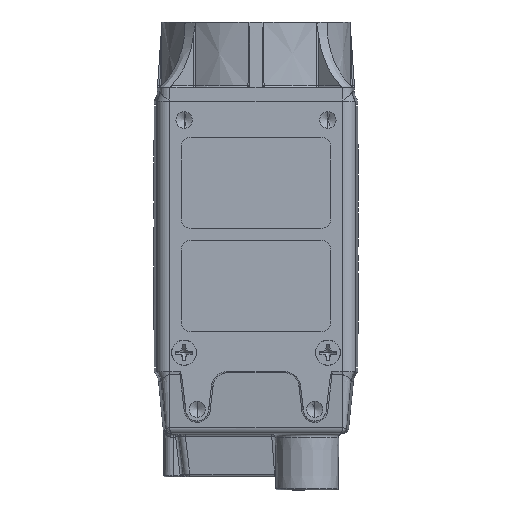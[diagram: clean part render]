
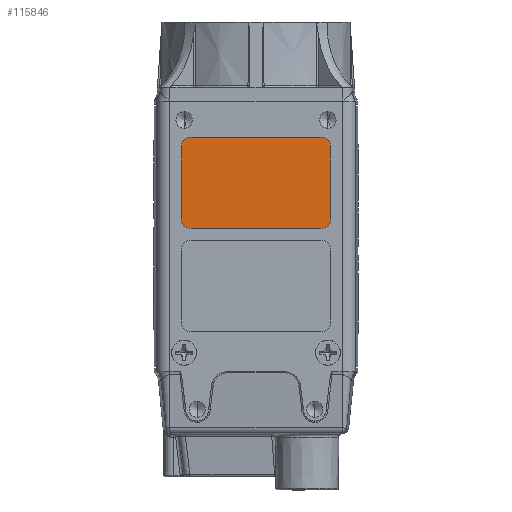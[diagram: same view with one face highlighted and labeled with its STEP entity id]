
A CAD part, front view. The second image highlights one B-rep face of the part: STEP entity #115846.
In plain terms, the highlighted planar face has unit normal (0, -1, 0).
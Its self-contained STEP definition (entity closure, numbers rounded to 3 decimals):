
#4198 = ORIENTED_EDGE ( 'NONE', *, *, #4394, .T. ) ;
#4394 = EDGE_CURVE ( 'NONE', #112874, #144542, #6226, .T. ) ;
#4885 = EDGE_CURVE ( 'NONE', #77280, #62161, #118172, .T. ) ;
#6226 = CIRCLE ( 'NONE', #97783, 1.5 ) ;
#8879 = ORIENTED_EDGE ( 'NONE', *, *, #78339, .T. ) ;
#14625 = CARTESIAN_POINT ( 'NONE',  ( 9.925, 0.25, -19.1 ) ) ;
#16674 = CARTESIAN_POINT ( 'NONE',  ( 9.925, 0.25, -31.6 ) ) ;
#16895 = AXIS2_PLACEMENT_3D ( 'NONE', #14625, #92870, #25866 ) ;
#17725 = EDGE_CURVE ( 'NONE', #62161, #135800, #123587, .T. ) ;
#18489 = CARTESIAN_POINT ( 'NONE',  ( -9.925, 0.25, -19.1 ) ) ;
#19337 = DIRECTION ( 'NONE',  ( 0., -1., 0. ) ) ;
#20109 = VECTOR ( 'NONE', #142244, 1000. ) ;
#20398 = CARTESIAN_POINT ( 'NONE',  ( -9.925, 0.25, -31.6 ) ) ;
#23567 = ORIENTED_EDGE ( 'NONE', *, *, #4885, .T. ) ;
#25866 = DIRECTION ( 'NONE',  ( 0., 0., 1. ) ) ;
#25900 = LINE ( 'NONE', #129261, #85382 ) ;
#28956 = FACE_OUTER_BOUND ( 'NONE', #52921, .T. ) ;
#29724 = DIRECTION ( 'NONE',  ( 0., 0., 1. ) ) ;
#30325 = CARTESIAN_POINT ( 'NONE',  ( 9.925, 0.25, -30.1 ) ) ;
#31133 = ORIENTED_EDGE ( 'NONE', *, *, #101975, .T. ) ;
#31821 = ORIENTED_EDGE ( 'NONE', *, *, #17725, .T. ) ;
#32756 = ORIENTED_EDGE ( 'NONE', *, *, #111652, .T. ) ;
#41097 = CARTESIAN_POINT ( 'NONE',  ( 9.925, 0.25, -31.6 ) ) ;
#41640 = DIRECTION ( 'NONE',  ( 0., 0., 1. ) ) ;
#46065 = CARTESIAN_POINT ( 'NONE',  ( -9.925, 0.25, -30.1 ) ) ;
#48413 = ORIENTED_EDGE ( 'NONE', *, *, #88491, .T. ) ;
#49814 = LINE ( 'NONE', #41097, #20109 ) ;
#52265 = CARTESIAN_POINT ( 'NONE',  ( 11.425, 0.25, -19.1 ) ) ;
#52921 = EDGE_LOOP ( 'NONE', ( #31821, #8879, #48413, #32756, #4198, #31133, #121052, #23567 ) ) ;
#57301 = DIRECTION ( 'NONE',  ( 0., 0., 1. ) ) ;
#62161 = VERTEX_POINT ( 'NONE', #75930 ) ;
#62713 = AXIS2_PLACEMENT_3D ( 'NONE', #46065, #124331, #57301 ) ;
#65151 = VERTEX_POINT ( 'NONE', #20398 ) ;
#69154 = CARTESIAN_POINT ( 'NONE',  ( 9.925, 0.25, -17.6 ) ) ;
#74122 = VECTOR ( 'NONE', #81740, 1000. ) ;
#75930 = CARTESIAN_POINT ( 'NONE',  ( -9.925, 0.25, -17.6 ) ) ;
#77280 = VERTEX_POINT ( 'NONE', #69154 ) ;
#77624 = LINE ( 'NONE', #138002, #74122 ) ;
#78339 = EDGE_CURVE ( 'NONE', #135800, #101176, #25900, .T. ) ;
#81740 = DIRECTION ( 'NONE',  ( 0., 0., 1. ) ) ;
#82258 = CIRCLE ( 'NONE', #62713, 1.5 ) ;
#84666 = DIRECTION ( 'NONE',  ( 0., 0., -1. ) ) ;
#85382 = VECTOR ( 'NONE', #84666, 1000. ) ;
#86384 = CARTESIAN_POINT ( 'NONE',  ( -9.925, 0.25, -19.1 ) ) ;
#86750 = CIRCLE ( 'NONE', #16895, 1.5 ) ;
#88372 = VECTOR ( 'NONE', #139733, 1000. ) ;
#88491 = EDGE_CURVE ( 'NONE', #101176, #65151, #82258, .T. ) ;
#92870 = DIRECTION ( 'NONE',  ( 0., -1., 0. ) ) ;
#95358 = CARTESIAN_POINT ( 'NONE',  ( -11.425, 0.25, -19.1 ) ) ;
#95829 = AXIS2_PLACEMENT_3D ( 'NONE', #86384, #19337, #97661 ) ;
#96736 = CARTESIAN_POINT ( 'NONE',  ( -11.425, 0.25, -30.1 ) ) ;
#96750 = DIRECTION ( 'NONE',  ( 0., -1., 0. ) ) ;
#97661 = DIRECTION ( 'NONE',  ( 0., 0., 1. ) ) ;
#97783 = AXIS2_PLACEMENT_3D ( 'NONE', #30325, #108644, #41640 ) ;
#101176 = VERTEX_POINT ( 'NONE', #96736 ) ;
#101975 = EDGE_CURVE ( 'NONE', #144542, #143580, #77624, .T. ) ;
#106082 = CARTESIAN_POINT ( 'NONE',  ( 11.425, 0.25, -30.1 ) ) ;
#107572 = PLANE ( 'NONE',  #135162 ) ;
#108644 = DIRECTION ( 'NONE',  ( 0., -1., 0. ) ) ;
#110139 = EDGE_CURVE ( 'NONE', #143580, #77280, #86750, .T. ) ;
#111652 = EDGE_CURVE ( 'NONE', #65151, #112874, #49814, .T. ) ;
#112874 = VERTEX_POINT ( 'NONE', #16674 ) ;
#115846 = ADVANCED_FACE ( 'NONE', ( #28956 ), #107572, .T. ) ;
#118172 = LINE ( 'NONE', #128539, #88372 ) ;
#121052 = ORIENTED_EDGE ( 'NONE', *, *, #110139, .T. ) ;
#123587 = CIRCLE ( 'NONE', #95829, 1.5 ) ;
#124331 = DIRECTION ( 'NONE',  ( 0., -1., 0. ) ) ;
#128539 = CARTESIAN_POINT ( 'NONE',  ( 9.925, 0.25, -17.6 ) ) ;
#129261 = CARTESIAN_POINT ( 'NONE',  ( -11.425, 0.25, -19.1 ) ) ;
#135162 = AXIS2_PLACEMENT_3D ( 'NONE', #18489, #96750, #29724 ) ;
#135800 = VERTEX_POINT ( 'NONE', #95358 ) ;
#138002 = CARTESIAN_POINT ( 'NONE',  ( 11.425, 0.25, -19.1 ) ) ;
#139733 = DIRECTION ( 'NONE',  ( -1., 0., 0. ) ) ;
#142244 = DIRECTION ( 'NONE',  ( 1., 0., 0. ) ) ;
#143580 = VERTEX_POINT ( 'NONE', #52265 ) ;
#144542 = VERTEX_POINT ( 'NONE', #106082 ) ;
